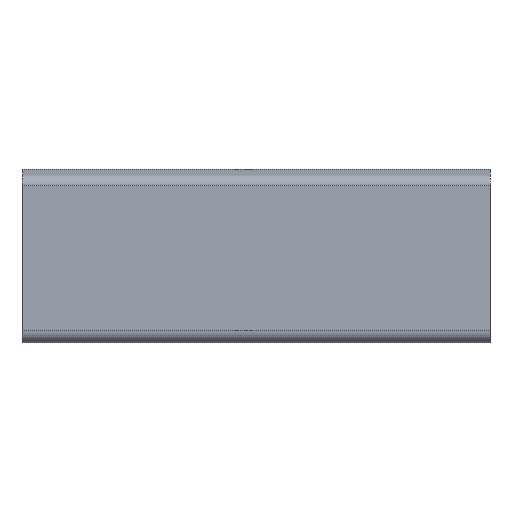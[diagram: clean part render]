
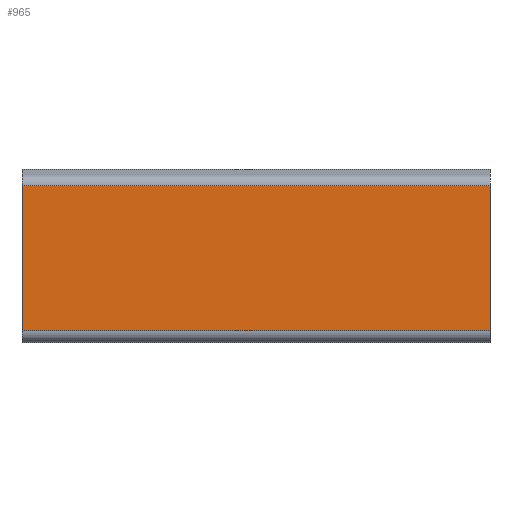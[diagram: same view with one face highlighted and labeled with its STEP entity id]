
A CAD part, front view. The second image highlights one B-rep face of the part: STEP entity #965.
In plain terms, the highlighted planar face has unit normal (0, -1, 0).
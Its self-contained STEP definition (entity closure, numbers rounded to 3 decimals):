
#20 = CARTESIAN_POINT ( 'NONE',  ( -40.816, 27.398, -3.5 ) ) ;
#75 = EDGE_LOOP ( 'NONE', ( #968, #1248, #521, #1301 ) ) ;
#83 = DIRECTION ( 'NONE',  ( -1., 0., 0. ) ) ;
#124 = LINE ( 'NONE', #1184, #1003 ) ;
#141 = LINE ( 'NONE', #20, #209 ) ;
#167 = VERTEX_POINT ( 'NONE', #233 ) ;
#209 = VECTOR ( 'NONE', #686, 1000. ) ;
#210 = FACE_OUTER_BOUND ( 'NONE', #75, .T. ) ;
#233 = CARTESIAN_POINT ( 'NONE',  ( 59.184, 27.398, -3.5 ) ) ;
#288 = CARTESIAN_POINT ( 'NONE',  ( 59.184, 27.398, -34.503 ) ) ;
#323 = EDGE_CURVE ( 'NONE', #167, #665, #1201, .T. ) ;
#468 = DIRECTION ( 'NONE',  ( 0., 0., 1. ) ) ;
#487 = VERTEX_POINT ( 'NONE', #608 ) ;
#505 = VERTEX_POINT ( 'NONE', #288 ) ;
#521 = ORIENTED_EDGE ( 'NONE', *, *, #736, .F. ) ;
#588 = CARTESIAN_POINT ( 'NONE',  ( 59.184, 27.398, -3.5 ) ) ;
#608 = CARTESIAN_POINT ( 'NONE',  ( -40.816, 27.398, -34.503 ) ) ;
#665 = VERTEX_POINT ( 'NONE', #870 ) ;
#686 = DIRECTION ( 'NONE',  ( 0., 0., -1. ) ) ;
#735 = LINE ( 'NONE', #1196, #1242 ) ;
#736 = EDGE_CURVE ( 'NONE', #167, #505, #735, .T. ) ;
#870 = CARTESIAN_POINT ( 'NONE',  ( -40.816, 27.398, -3.5 ) ) ;
#871 = EDGE_CURVE ( 'NONE', #665, #487, #141, .T. ) ;
#905 = PLANE ( 'NONE',  #1049 ) ;
#914 = DIRECTION ( 'NONE',  ( 0., 1., 0. ) ) ;
#952 = VECTOR ( 'NONE', #1026, 1000. ) ;
#965 = ADVANCED_FACE ( 'NONE', ( #210 ), #905, .F. ) ;
#968 = ORIENTED_EDGE ( 'NONE', *, *, #871, .T. ) ;
#1003 = VECTOR ( 'NONE', #83, 1000. ) ;
#1026 = DIRECTION ( 'NONE',  ( -1., 0., 0. ) ) ;
#1049 = AXIS2_PLACEMENT_3D ( 'NONE', #588, #914, #468 ) ;
#1184 = CARTESIAN_POINT ( 'NONE',  ( 59.184, 27.398, -34.503 ) ) ;
#1196 = CARTESIAN_POINT ( 'NONE',  ( 59.184, 27.398, -3.5 ) ) ;
#1201 = LINE ( 'NONE', #1346, #952 ) ;
#1242 = VECTOR ( 'NONE', #1416, 1000. ) ;
#1248 = ORIENTED_EDGE ( 'NONE', *, *, #1326, .F. ) ;
#1301 = ORIENTED_EDGE ( 'NONE', *, *, #323, .T. ) ;
#1326 = EDGE_CURVE ( 'NONE', #505, #487, #124, .T. ) ;
#1346 = CARTESIAN_POINT ( 'NONE',  ( 59.184, 27.398, -3.5 ) ) ;
#1416 = DIRECTION ( 'NONE',  ( 0., 0., -1. ) ) ;
